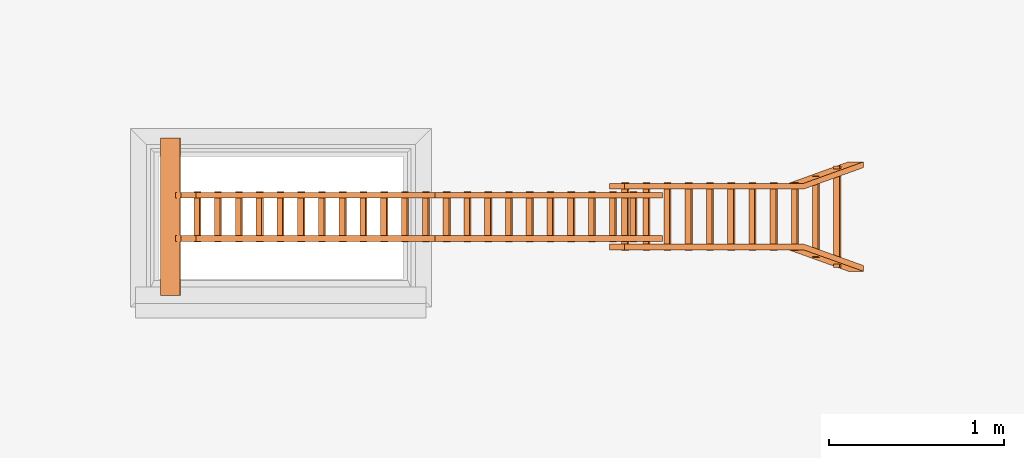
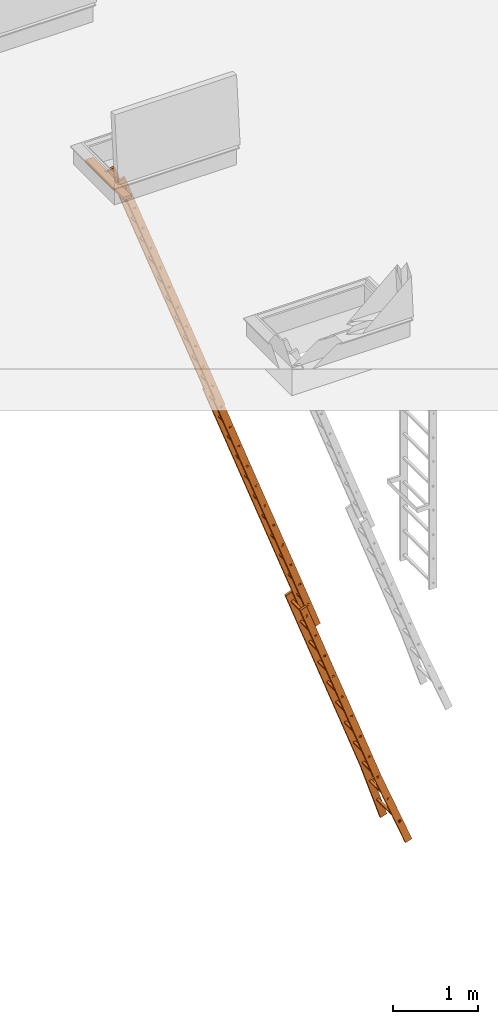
# One storey, part 9 of 28: 1 proxy, 2 openings.
"""IFC2X3 building model written with IfcOpenShell, lengths in millimetres."""

from ifc_helpers import new_model, entity, si_unit, converted_unit, derived_unit, direction, frame, frame_2d, origin, origin_2d_with_axis, place, context, subcontext, project, spatial, polyline, circle_curve, parameter, trimmed, segment, composite_curve, rectangle, outline, extrude, source, transform, mapped, type_object, type_shapes, element, save


model = new_model("IFC2X3")

# Units and contexts
model_context = context("Model", 3, precision=0.01, world=origin(), true_north=direction((6.12303176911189e-17, 1.0)))
body_context = subcontext(model_context, "Body", "Model", "MODEL_VIEW")
ifc_project = project(units=[si_unit("LENGTHUNIT", "METRE", prefix="MILLI"), si_unit("AREAUNIT", "SQUARE_METRE"), si_unit("VOLUMEUNIT", "CUBIC_METRE"), converted_unit("PLANEANGLEUNIT", "DEGREE", entity("IfcRatioMeasure", 0.0174532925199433), si_unit("PLANEANGLEUNIT", "RADIAN"), dimensions=[0, 0, 0, 0, 0, 0, 0]), si_unit("MASSUNIT", "GRAM", prefix="KILO"), derived_unit("MASSDENSITYUNIT", [(si_unit("MASSUNIT", "GRAM", prefix="KILO"), 1), (si_unit("LENGTHUNIT", "METRE"), -3)]), si_unit("TIMEUNIT", "SECOND"), si_unit("FREQUENCYUNIT", "HERTZ"), si_unit("THERMODYNAMICTEMPERATUREUNIT", "DEGREE_CELSIUS"), derived_unit("THERMALTRANSMITTANCEUNIT", [(si_unit("MASSUNIT", "GRAM", prefix="KILO"), 1), (si_unit("THERMODYNAMICTEMPERATUREUNIT", "KELVIN"), -1), (si_unit("TIMEUNIT", "SECOND"), -3)]), derived_unit("VOLUMETRICFLOWRATEUNIT", [(si_unit("LENGTHUNIT", "METRE"), 3), (si_unit("TIMEUNIT", "SECOND"), -1)]), si_unit("ELECTRICCURRENTUNIT", "AMPERE"), si_unit("ELECTRICVOLTAGEUNIT", "VOLT"), si_unit("POWERUNIT", "WATT"), si_unit("FORCEUNIT", "NEWTON", prefix="KILO"), si_unit("ILLUMINANCEUNIT", "LUX"), si_unit("LUMINOUSFLUXUNIT", "LUMEN"), si_unit("LUMINOUSINTENSITYUNIT", "CANDELA"), derived_unit("USERDEFINED", [(si_unit("MASSUNIT", "GRAM", prefix="KILO"), -1), (si_unit("LENGTHUNIT", "METRE"), -2), (si_unit("TIMEUNIT", "SECOND"), 3), (si_unit("LUMINOUSFLUXUNIT", "LUMEN"), 1)]), derived_unit("LINEARVELOCITYUNIT", [(si_unit("LENGTHUNIT", "METRE"), 1), (si_unit("TIMEUNIT", "SECOND"), -1)]), si_unit("PRESSUREUNIT", "PASCAL"), derived_unit("USERDEFINED", [(si_unit("LENGTHUNIT", "METRE"), -2), (si_unit("MASSUNIT", "GRAM", prefix="KILO"), 1), (si_unit("TIMEUNIT", "SECOND"), -2)])], contexts=[model_context])

# Site, building, storey
site_placement = place(None, origin())
site = spatial("IfcSite", under=ifc_project, at=site_placement, Name="Default", CompositionType="ELEMENT")
building_placement = place(site_placement, origin())
building = spatial("IfcBuilding", under=site, at=building_placement, CompositionType="ELEMENT")
storey_placement = place(building_placement, frame((0.0, 0.0, 4000.0)))
storey = spatial("IfcBuildingStorey", under=building, at=storey_placement, Name="Level 2", CompositionType="ELEMENT", Elevation=4000.0)

# Proxy, openings
building_element_proxy_type = type_object("IfcBuildingElementProxyType", Name="9_Topaccess_Trap_3delige1", PredefinedType="NOTDEFINED")
shared_shape = source(origin(), body_context, "Body", "SweptSolid", [
    extrude(outline(composite_curve([segment(polyline([(-20.0, -72.6666666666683), (20.0, -72.6666666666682)]), True, "CONTINUOUS"), segment(polyline([(20.0, -72.6666666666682), (20.0, 31.8333333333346)]), True, "CONTINUOUS"), segment(trimmed(circle_curve(frame_2d((11.0, 31.8333333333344), x_axis=(0.939692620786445, -0.342020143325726)), 8.99999999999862), [parameter(20.0000000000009)], [parameter(109.999999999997)], True, "PARAMETER"), True, "CONTINUOUS"), segment(polyline([(11.0, 40.8333333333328), (-11.0, 40.833333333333)]), True, "CONTINUOUS"), segment(trimmed(circle_curve(frame_2d((-11.0, 31.8333333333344), x_axis=(0.939692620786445, -0.342020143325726)), 8.99999999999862), [parameter(109.999999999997)], [parameter(199.999999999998)], True, "PARAMETER"), True, "CONTINUOUS"), segment(polyline([(-20.0, 31.8333333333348), (-20.0, -72.6666666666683)]), True, "CONTINUOUS")], self_intersect=False)), frame((-484.291584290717, 5437.00468660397, 85.555153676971), z_axis=(1.0, 0.0, 0.0), x_axis=(0.0, 0.939692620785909, 0.342020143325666)), (0.0, 0.0, 1.0), 900.0),
    extrude(outline(composite_curve([segment(polyline([(34.5620685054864, -17.3803405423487), (-85.4379314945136, -17.3803405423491)]), True, "CONTINUOUS"), segment(polyline([(-85.4379314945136, -17.3803405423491), (-85.4379314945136, -20.3803405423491)]), True, "CONTINUOUS"), segment(polyline([(-85.4379314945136, -20.3803405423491), (34.8237042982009, -20.3803405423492)]), True, "CONTINUOUS"), segment(trimmed(circle_curve(frame_2d((31.2529900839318, 0.719659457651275), x_axis=(1.0, 0.0)), 21.4), [parameter(279.605058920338)], [parameter(66.7401617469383)], True, "PARAMETER"), True, "CONTINUOUS"), segment(polyline([(39.7038846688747, 20.3803405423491), (11.3620685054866, 20.380340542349)]), True, "CONTINUOUS"), segment(polyline([(11.3620685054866, 20.380340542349), (11.3620685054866, 17.380340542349)]), True, "CONTINUOUS"), segment(polyline([(11.3620685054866, 17.380340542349), (39.0620685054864, 17.3803405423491)]), True, "CONTINUOUS"), segment(trimmed(circle_curve(frame_2d((31.2529900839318, 0.719659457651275), x_axis=(1.0, 0.0)), 18.4), [parameter(280.36051137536)], [parameter(64.8869014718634)], True, "PARAMETER"), False, "CONTINUOUS")], self_intersect=False)), frame((72.0, 5400.1320556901, 113.619659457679), z_axis=(-1.0, 0.0, 0.0), x_axis=(0.0, 1.0, 0.0)), (0.0, 0.0, -1.0), 33.0),
    extrude(outline(composite_curve([segment(polyline([(-85.4379314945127, -17.3803405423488), (-85.4379314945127, -20.3803405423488)]), True, "CONTINUOUS"), segment(polyline([(-85.4379314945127, -20.3803405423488), (34.8237042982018, -20.3803405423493)]), True, "CONTINUOUS"), segment(trimmed(circle_curve(frame_2d((31.2529900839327, 0.719659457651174), x_axis=(1.0, 0.0)), 21.4), [parameter(279.605058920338)], [parameter(66.7401617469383)], True, "PARAMETER"), True, "CONTINUOUS"), segment(polyline([(39.7038846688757, 20.380340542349), (11.3620685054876, 20.380340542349)]), True, "CONTINUOUS"), segment(polyline([(11.3620685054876, 20.380340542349), (11.3620685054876, 17.380340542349)]), True, "CONTINUOUS"), segment(polyline([(11.3620685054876, 17.380340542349), (39.0620685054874, 17.380340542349)]), True, "CONTINUOUS"), segment(trimmed(circle_curve(frame_2d((31.2529900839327, 0.719659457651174), x_axis=(1.0, 0.0)), 18.4), [parameter(280.36051137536)], [parameter(64.8869014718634)], True, "PARAMETER"), False, "CONTINUOUS"), segment(polyline([(34.5620685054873, -17.3803405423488), (-85.4379314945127, -17.3803405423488)]), True, "CONTINUOUS")], self_intersect=False)), frame((-175.0, 5400.13205569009, 113.619659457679), z_axis=(-1.0, 0.0, 0.0), x_axis=(0.0, 1.0, 0.0)), (0.0, 0.0, -1.0), 33.0000000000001),
    extrude(outline(polyline([(-11.5216143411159, -16.5), (13.8405381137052, -16.5), (13.8405381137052, 16.4999999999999), (-16.1594618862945, 16.5), (-11.5216143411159, -16.5)]), holes=[polyline([(8.84053811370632, -11.5), (-7.1751806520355, -11.5), (-10.4076198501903, 11.5000000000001), (8.84053811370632, 11.5), (8.84053811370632, -11.5)])]), frame((-178.583168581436, 1440.72573419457, 171.084388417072), z_axis=(1.0, 0.0, 0.0), x_axis=(0.0, -1.0, 0.0)), (0.0, 0.0, 1.0), 288.583168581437),
    extrude(outline(polyline([(-11.5216143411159, -16.5), (13.8405381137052, -16.5), (13.8405381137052, 16.4999999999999), (-16.1594618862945, 16.5), (-11.5216143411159, -16.5)]), holes=[polyline([(8.84053811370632, -11.5), (-7.1751806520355, -11.5), (-10.4076198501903, 11.5000000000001), (8.84053811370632, 11.5), (8.84053811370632, -11.5)])]), frame((-178.583168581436, 1093.22573419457, 171.084388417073), z_axis=(1.0, 0.0, 0.0), x_axis=(0.0, -1.0, 0.0)), (0.0, 0.0, 1.0), 288.583168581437),
    extrude(outline(polyline([(-11.5216143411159, -16.5), (13.8405381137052, -16.5), (13.8405381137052, 16.4999999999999), (-16.1594618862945, 16.5), (-11.5216143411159, -16.5)]), holes=[polyline([(8.84053811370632, -11.5), (-7.1751806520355, -11.5), (-10.4076198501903, 11.5000000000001), (8.84053811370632, 11.5), (8.84053811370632, -11.5)])]), frame((-178.583168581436, 745.725734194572, 171.084388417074), z_axis=(1.0, 0.0, 0.0), x_axis=(0.0, -1.0, 0.0)), (0.0, 0.0, 1.0), 288.583168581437),
    extrude(outline(polyline([(-11.5216143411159, -16.5), (13.8405381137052, -16.5), (13.8405381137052, 16.4999999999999), (-16.1594618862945, 16.5), (-11.5216143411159, -16.5)]), holes=[polyline([(8.84053811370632, -11.5), (-7.1751806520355, -11.5), (-10.4076198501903, 11.5000000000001), (8.84053811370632, 11.5), (8.84053811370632, -11.5)])]), frame((-178.583168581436, 398.225734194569, 171.084388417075), z_axis=(1.0, 0.0, 0.0), x_axis=(0.0, -1.0, 0.0)), (0.0, 0.0, 1.0), 288.583168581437),
    extrude(outline(polyline([(-11.5216143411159, -16.5), (13.8405381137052, -16.5), (13.8405381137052, 16.4999999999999), (-16.1594618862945, 16.5), (-11.5216143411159, -16.5)]), holes=[polyline([(8.84053811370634, -11.5), (-7.17518065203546, -11.5), (-10.4076198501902, 11.5000000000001), (8.84053811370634, 11.5), (8.84053811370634, -11.5)])]), frame((-178.583168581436, 50.7257341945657, 171.084388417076), z_axis=(1.0, 0.0, 0.0), x_axis=(0.0, -1.0, 0.0)), (0.0, 0.0, 1.0), 288.583168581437),
    extrude(outline(polyline([(-11.5216143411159, -16.5), (13.8405381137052, -16.5), (13.8405381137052, 16.4999999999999), (-16.1594618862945, 16.5), (-11.5216143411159, -16.5)]), holes=[polyline([(8.84053811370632, -11.5), (-7.17518065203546, -11.5), (-10.4076198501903, 11.5000000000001), (8.84053811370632, 11.5), (8.84053811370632, -11.5)])]), frame((-178.583168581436, -296.774265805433, 171.084388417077), z_axis=(1.0, 0.0, 0.0), x_axis=(0.0, -1.0, 0.0)), (0.0, 0.0, 1.0), 288.583168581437),
    extrude(outline(polyline([(-11.5216143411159, -16.5), (13.8405381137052, -16.5), (13.8405381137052, 16.4999999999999), (-16.1594618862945, 16.5), (-11.5216143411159, -16.5)]), holes=[polyline([(8.84053811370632, -11.5), (-7.1751806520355, -11.5), (-10.4076198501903, 11.5000000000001), (8.84053811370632, 11.5), (8.84053811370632, -11.5)])]), frame((-178.583168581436, -644.274265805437, 171.084388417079), z_axis=(1.0, 0.0, 0.0), x_axis=(0.0, -1.0, 0.0)), (0.0, 0.0, 1.0), 288.583168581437),
    extrude(outline(polyline([(-11.5216143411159, -16.5), (13.8405381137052, -16.5), (13.8405381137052, 16.4999999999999), (-16.1594618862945, 16.5), (-11.5216143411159, -16.5)]), holes=[polyline([(8.84053811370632, -11.5), (-7.1751806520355, -11.5), (-10.4076198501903, 11.5000000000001), (8.84053811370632, 11.5), (8.84053811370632, -11.5)])]), frame((-178.583168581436, -991.774265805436, 171.08438841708), z_axis=(1.0, 0.0, 0.0), x_axis=(0.0, -1.0, 0.0)), (0.0, 0.0, 1.0), 288.583168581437),
    extrude(outline(polyline([(-11.5216143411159, -16.5), (13.8405381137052, -16.5), (13.8405381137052, 16.4999999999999), (-16.1594618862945, 16.5), (-11.5216143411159, -16.5)]), holes=[polyline([(8.84053811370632, -11.5), (-7.1751806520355, -11.5), (-10.4076198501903, 11.5000000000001), (8.84053811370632, 11.5), (8.84053811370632, -11.5)])]), frame((-178.583168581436, -1339.27426580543, 171.084388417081), z_axis=(1.0, 0.0, 0.0), x_axis=(0.0, -1.0, 0.0)), (0.0, 0.0, 1.0), 288.583168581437),
    extrude(outline(polyline([(-11.5216143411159, -16.4999999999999), (13.8405381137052, -16.4999999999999), (13.8405381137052, 16.4999999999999), (-16.1594618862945, 16.5), (-11.5216143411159, -16.4999999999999)]), holes=[polyline([(8.84053811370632, -11.5), (-7.1751806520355, -11.5), (-10.4076198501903, 11.5000000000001), (8.84053811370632, 11.5), (8.84053811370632, -11.5)])]), frame((-178.583168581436, -1686.77426580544, 171.084388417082), z_axis=(1.0, 0.0, 0.0), x_axis=(0.0, -1.0, 0.0)), (0.0, 0.0, 1.0), 288.583168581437),
    extrude(rectangle(XDim=33.0, YDim=4000.0, at=origin_2d_with_axis()), frame((88.5000000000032, -399.911054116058, 120.0), z_axis=(0.0, 0.0, 1.0), x_axis=(-1.0, 0.0, 0.0)), (0.0, 0.0, 1.0), 92.0),
    extrude(rectangle(XDim=33.0, YDim=4000.0, at=frame_2d((8.88178419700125e-15, 0.0), x_axis=(1.0, 0.0))), frame((-158.499999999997, -399.911054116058, 120.0), z_axis=(0.0, 0.0, 1.0), x_axis=(-1.0, 0.0, 0.0)), (0.0, 0.0, 1.0), 92.0),
    extrude(rectangle(XDim=33.0, YDim=4000.0, at=origin_2d_with_axis()), frame((88.5000000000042, 3440.6557599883, 134.0), z_axis=(0.0, 0.0, 1.0), x_axis=(-1.0, 0.0, 0.0)), (0.0, 0.0, 1.0), 90.0),
    extrude(rectangle(XDim=33.0, YDim=4000.0, at=frame_2d((8.88178419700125e-15, -5.6843418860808e-13), x_axis=(1.0, 0.0))), frame((-158.499999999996, 3440.6557599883, 134.0), z_axis=(0.0, 0.0, 1.0), x_axis=(-1.0, 0.0, 0.0)), (0.0, 0.0, 1.0), 90.0),
    extrude(outline(polyline([(-11.5216143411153, -16.5), (13.8405381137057, -16.5), (13.8405381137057, 16.5), (-16.159461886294, 16.5000000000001), (-11.5216143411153, -16.5)]), holes=[polyline([(8.84053811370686, -11.5), (-7.17518065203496, -11.5), (-10.4076198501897, 11.5), (8.84053811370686, 11.5), (8.84053811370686, -11.5)])]), frame((-178.583168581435, 5281.29254829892, 176.084388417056), z_axis=(1.0, 0.0, 0.0), x_axis=(0.0, -1.0, 0.0)), (0.0, 0.0, 1.0), 288.583168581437),
    extrude(outline(polyline([(-11.5216143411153, -16.5), (13.8405381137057, -16.5), (13.8405381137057, 16.5), (-16.159461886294, 16.5000000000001), (-11.5216143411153, -16.5)]), holes=[polyline([(8.84053811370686, -11.5), (-7.17518065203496, -11.5), (-10.4076198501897, 11.5), (8.84053811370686, 11.5), (8.84053811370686, -11.5)])]), frame((-178.583168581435, 4933.79254829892, 176.084388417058), z_axis=(1.0, 0.0, 0.0), x_axis=(0.0, -1.0, 0.0)), (0.0, 0.0, 1.0), 288.583168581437),
    extrude(outline(polyline([(-11.5216143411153, -16.5), (13.8405381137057, -16.5), (13.8405381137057, 16.5), (-16.159461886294, 16.5000000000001), (-11.5216143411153, -16.5)]), holes=[polyline([(8.84053811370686, -11.5), (-7.17518065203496, -11.5), (-10.4076198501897, 11.5), (8.84053811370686, 11.5), (8.84053811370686, -11.5)])]), frame((-178.583168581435, 4586.29254829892, 176.084388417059), z_axis=(1.0, 0.0, 0.0), x_axis=(0.0, -1.0, 0.0)), (0.0, 0.0, 1.0), 288.583168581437),
    extrude(outline(polyline([(-11.5216143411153, -16.5), (13.8405381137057, -16.5), (13.8405381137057, 16.4999999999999), (-16.159461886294, 16.5), (-11.5216143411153, -16.5)]), holes=[polyline([(8.84053811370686, -11.5), (-7.17518065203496, -11.5), (-10.4076198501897, 11.5), (8.84053811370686, 11.4999999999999), (8.84053811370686, -11.5)])]), frame((-178.583168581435, 4238.79254829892, 176.08438841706), z_axis=(1.0, 0.0, 0.0), x_axis=(0.0, -1.0, 0.0)), (0.0, 0.0, 1.0), 288.583168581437),
    extrude(outline(polyline([(-11.5216143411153, -16.5), (13.8405381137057, -16.5), (13.8405381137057, 16.5), (-16.159461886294, 16.5000000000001), (-11.5216143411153, -16.5)]), holes=[polyline([(8.84053811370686, -11.5), (-7.17518065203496, -11.5), (-10.4076198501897, 11.5), (8.84053811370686, 11.5), (8.84053811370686, -11.5)])]), frame((-178.583168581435, 3891.29254829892, 176.084388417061), z_axis=(1.0, 0.0, 0.0), x_axis=(0.0, -1.0, 0.0)), (0.0, 0.0, 1.0), 288.583168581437),
    extrude(outline(polyline([(-11.5216143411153, -16.5), (13.8405381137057, -16.5), (13.8405381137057, 16.5), (-16.159461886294, 16.5000000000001), (-11.5216143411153, -16.5)]), holes=[polyline([(8.84053811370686, -11.5), (-7.17518065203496, -11.5), (-10.4076198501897, 11.5), (8.84053811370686, 11.5), (8.84053811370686, -11.5)])]), frame((-178.583168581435, 3543.79254829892, 176.084388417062), z_axis=(1.0, 0.0, 0.0), x_axis=(0.0, -1.0, 0.0)), (0.0, 0.0, 1.0), 288.583168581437),
    extrude(outline(polyline([(-11.5216143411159, -16.5), (13.8405381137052, -16.5), (13.8405381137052, 16.4999999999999), (-16.1594618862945, 16.5), (-11.5216143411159, -16.5)]), holes=[polyline([(8.84053811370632, -11.5), (-7.1751806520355, -11.5), (-10.4076198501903, 11.5), (8.84053811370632, 11.5), (8.84053811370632, -11.5)])]), frame((-178.583168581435, 3196.29254829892, 176.084388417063), z_axis=(1.0, 0.0, 0.0), x_axis=(0.0, -1.0, 0.0)), (0.0, 0.0, 1.0), 288.583168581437),
    extrude(outline(polyline([(-11.5216143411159, -16.5), (13.8405381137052, -16.5), (13.8405381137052, 16.4999999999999), (-16.1594618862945, 16.5), (-11.5216143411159, -16.5)]), holes=[polyline([(8.84053811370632, -11.5), (-7.1751806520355, -11.5), (-10.4076198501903, 11.5), (8.84053811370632, 11.5), (8.84053811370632, -11.5)])]), frame((-178.583168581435, 2848.79254829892, 176.084388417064), z_axis=(1.0, 0.0, 0.0), x_axis=(0.0, -1.0, 0.0)), (0.0, 0.0, 1.0), 288.583168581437),
    extrude(outline(polyline([(-11.5216143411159, -16.5), (13.8405381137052, -16.5), (13.8405381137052, 16.5), (-16.1594618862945, 16.5000000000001), (-11.5216143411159, -16.5)]), holes=[polyline([(8.84053811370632, -11.5), (-7.1751806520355, -11.5), (-10.4076198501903, 11.5000000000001), (8.84053811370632, 11.5), (8.84053811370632, -11.5)])]), frame((-178.583168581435, 2501.29254829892, 176.084388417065), z_axis=(1.0, 0.0, 0.0), x_axis=(0.0, -1.0, 0.0)), (0.0, 0.0, 1.0), 288.583168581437),
    extrude(outline(polyline([(-11.5216143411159, -16.5), (13.8405381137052, -16.5), (13.8405381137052, 16.5), (-16.1594618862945, 16.5000000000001), (-11.5216143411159, -16.5)]), holes=[polyline([(8.84053811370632, -11.5), (-7.1751806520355, -11.5), (-10.4076198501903, 11.5), (8.84053811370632, 11.5), (8.84053811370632, -11.5)])]), frame((-178.583168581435, 2153.79254829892, 176.084388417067), z_axis=(1.0, 0.0, 0.0), x_axis=(0.0, -1.0, 0.0)), (0.0, 0.0, 1.0), 288.583168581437),
    extrude(outline(polyline([(-11.5216143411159, -16.5), (13.8405381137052, -16.5), (13.8405381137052, 16.4999999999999), (-16.1594618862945, 16.5), (-11.5216143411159, -16.5)]), holes=[polyline([(8.84053811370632, -11.5), (-7.1751806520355, -11.5), (-10.4076198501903, 11.5), (8.84053811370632, 11.5), (8.84053811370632, -11.5)])]), frame((-178.583168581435, 1806.29254829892, 176.084388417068), z_axis=(1.0, 0.0, 0.0), x_axis=(0.0, -1.0, 0.0)), (0.0, 0.0, 1.0), 288.583168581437),
    extrude(outline(polyline([(-11.5216143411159, -16.5), (13.8405381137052, -16.5), (13.8405381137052, 16.4999999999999), (-16.1594618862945, 16.5), (-11.5216143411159, -16.5)]), holes=[polyline([(8.84053811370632, -11.5), (-7.1751806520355, -11.5), (-10.4076198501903, 11.5), (8.84053811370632, 11.5), (8.84053811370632, -11.5)])]), frame((-227.077291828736, -2129.53575748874, 85.0843884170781), z_axis=(1.0, 0.0, 0.0), x_axis=(0.0, -1.0, 0.0)), (0.0, 0.0, 1.0), 389.077291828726),
    extrude(outline(polyline([(-11.5216143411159, -16.5), (13.8405381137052, -16.5), (13.8405381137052, 16.5), (-16.1594618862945, 16.5), (-11.5216143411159, -16.5)]), holes=[polyline([(8.84053811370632, -11.5), (-7.1751806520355, -11.5), (-10.4076198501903, 11.5), (8.84053811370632, 11.5), (8.84053811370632, -11.5)])]), frame((-227.077291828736, -2484.53575748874, 85.0843884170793), z_axis=(1.0, 0.0, 0.0), x_axis=(0.0, -1.0, 0.0)), (0.0, 0.0, 1.0), 389.077291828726),
    extrude(outline(polyline([(-11.5216143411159, -16.5), (13.8405381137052, -16.5), (13.8405381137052, 16.4999999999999), (-16.1594618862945, 16.5), (-11.5216143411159, -16.5)]), holes=[polyline([(8.84053811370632, -11.5), (-7.1751806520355, -11.5), (-10.4076198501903, 11.5), (8.84053811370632, 11.5), (8.84053811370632, -11.5)])]), frame((-227.077291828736, -2839.53575748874, 85.0843884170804), z_axis=(1.0, 0.0, 0.0), x_axis=(0.0, -1.0, 0.0)), (0.0, 0.0, 1.0), 389.077291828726),
    extrude(outline(polyline([(-11.5216143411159, -16.5), (13.8405381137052, -16.5), (13.8405381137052, 16.4999999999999), (-16.1594618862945, 16.5), (-11.5216143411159, -16.5)]), holes=[polyline([(8.84053811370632, -11.5), (-7.1751806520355, -11.5), (-10.4076198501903, 11.5000000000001), (8.84053811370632, 11.5), (8.84053811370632, -11.5)])]), frame((-178.583168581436, -2034.27426580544, 171.084388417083), z_axis=(1.0, 0.0, 0.0), x_axis=(0.0, -1.0, 0.0)), (0.0, 0.0, 1.0), 288.583168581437),
    extrude(outline(polyline([(-11.5216143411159, -16.5), (13.8405381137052, -16.5), (13.8405381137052, 16.4999999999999), (-16.1594618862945, 16.5), (-11.5216143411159, -16.5)]), holes=[polyline([(8.84053811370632, -11.5), (-7.1751806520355, -11.5), (-10.4076198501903, 11.5), (8.84053811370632, 11.5), (8.84053811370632, -11.5)])]), frame((-227.077291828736, -3194.53575748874, 85.0843884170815), z_axis=(1.0, 0.0, 0.0), x_axis=(0.0, -1.0, 0.0)), (0.0, 0.0, 1.0), 389.077291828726),
    extrude(outline(polyline([(-11.5216143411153, -16.5), (13.8405381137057, -16.5), (13.8405381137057, 16.4999999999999), (-16.159461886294, 16.5), (-11.5216143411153, -16.5)]), holes=[polyline([(8.84053811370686, -11.5), (-7.17518065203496, -11.5), (-10.4076198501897, 11.5), (8.84053811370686, 11.5), (8.84053811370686, -11.5)])]), frame((-227.077291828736, -3549.53575748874, 85.0843884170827), z_axis=(1.0, 0.0, 0.0), x_axis=(0.0, -1.0, 0.0)), (0.0, 0.0, 1.0), 389.077291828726),
    extrude(outline(polyline([(-11.5216143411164, -16.5), (13.8405381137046, -16.5), (13.8405381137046, 16.5), (-16.159461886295, 16.5), (-11.5216143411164, -16.5)]), holes=[polyline([(8.84053811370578, -11.5), (-7.17518065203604, -11.5), (-10.4076198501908, 11.5), (8.84053811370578, 11.5), (8.84053811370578, -11.5)])]), frame((-227.077291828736, -3904.53575748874, 85.0843884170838), z_axis=(1.0, 0.0, 0.0), x_axis=(0.0, -1.0, 0.0)), (0.0, 0.0, 1.0), 389.077291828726),
    extrude(outline(polyline([(-11.5216143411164, -16.5), (13.8405381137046, -16.5), (13.8405381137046, 16.5), (-16.159461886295, 16.5000000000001), (-11.5216143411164, -16.5)]), holes=[polyline([(8.84053811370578, -11.5), (-7.17518065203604, -11.5), (-10.4076198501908, 11.5000000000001), (8.84053811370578, 11.5), (8.84053811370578, -11.5)])]), frame((-227.077291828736, -4259.53575748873, 85.084388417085), z_axis=(1.0, 0.0, 0.0), x_axis=(0.0, -1.0, 0.0)), (0.0, 0.0, 1.0), 389.077291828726),
    extrude(outline(polyline([(-11.5216143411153, -16.5), (13.8405381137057, -16.5), (13.8405381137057, 16.5), (-16.159461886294, 16.5000000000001), (-11.5216143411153, -16.5)]), holes=[polyline([(8.84053811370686, -11.5), (-7.17518065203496, -11.5), (-10.4076198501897, 11.5000000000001), (8.84053811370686, 11.5), (8.84053811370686, -11.5)])]), frame((-227.077291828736, -4614.53575748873, 85.0843884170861), z_axis=(1.0, 0.0, 0.0), x_axis=(0.0, -1.0, 0.0)), (0.0, 0.0, 1.0), 389.077291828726),
    extrude(outline(polyline([(-11.5216143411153, -16.5), (13.8405381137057, -16.5), (13.8405381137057, 16.5), (-16.159461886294, 16.5000000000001), (-11.5216143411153, -16.5)]), holes=[polyline([(8.84053811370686, -11.5), (-7.17518065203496, -11.5), (-10.4076198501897, 11.5000000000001), (8.84053811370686, 11.5), (8.84053811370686, -11.5)])]), frame((-227.077291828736, -4969.53575748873, 85.0843884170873), z_axis=(1.0, 0.0, 0.0), x_axis=(0.0, -1.0, 0.0)), (0.0, 0.0, 1.0), 389.077291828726),
    extrude(outline(polyline([(-11.5216143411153, -16.5), (13.8405381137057, -16.5), (13.8405381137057, 16.5), (-16.159461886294, 16.5000000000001), (-11.5216143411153, -16.5)]), holes=[polyline([(8.84053811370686, -11.5), (-7.17518065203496, -11.5), (-10.4076198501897, 11.5), (8.84053811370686, 11.5), (8.84053811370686, -11.5)])]), frame((-266.000121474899, -5324.53575748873, 85.0843884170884), z_axis=(1.0, 0.0, 0.0), x_axis=(0.0, -1.0, 0.0)), (0.0, 0.0, 1.0), 465.000121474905),
    extrude(outline(polyline([(-11.5216143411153, -16.5), (13.8405381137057, -16.5), (13.8405381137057, 16.5), (-16.159461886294, 16.5000000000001), (-11.5216143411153, -16.5)]), holes=[polyline([(8.84053811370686, -11.5), (-7.17518065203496, -11.5), (-10.4076198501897, 11.5000000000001), (8.84053811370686, 11.5), (8.84053811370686, -11.5)])]), frame((-323.951711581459, -5679.53575748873, 85.0843884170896), z_axis=(1.0, 0.0, 0.0), x_axis=(0.0, -1.0, 0.0)), (0.0, 0.0, 1.0), 580.345535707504),
    extrude(outline(polyline([(652.705853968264, -138.16622783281), (1663.21970450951, -138.16622783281), (1667.27159501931, -105.166227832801), (656.727542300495, -105.412204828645), (-2317.9515037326, 259.832455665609), (-2321.97319206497, 227.078432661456), (652.705853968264, -138.16622783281)])), frame((181.59152386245, -4331.59474961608, 35.4999999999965), z_axis=(0.0, 0.0, 1.0), x_axis=(0.121869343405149, -0.992546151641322, 0.0)), (0.0, 0.0, 1.0), 92.0),
    extrude(outline(polyline([(655.058107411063, 105.207223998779), (1667.6054819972, 105.207223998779), (1663.55359148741, 138.207223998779), (653.039740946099, 138.207223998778), (-2321.63930508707, -227.037436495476), (-2317.6176167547, -259.791459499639), (655.058107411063, 105.207223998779)])), frame((-247.591523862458, -4331.25835520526, 35.4999999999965), z_axis=(0.0, 0.0, 1.0), x_axis=(-0.121869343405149, -0.992546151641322, 0.0)), (0.0, 0.0, 1.0), 92.0),
])
type_shapes(building_element_proxy_type, [shared_shape])
proxy_placement = place(storey_placement, frame((2973.33286511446, 9913.78291614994, -4726.49653876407), z_axis=(0.939692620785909, 0.0, 0.342020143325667), x_axis=(0.0, 1.0, 0.0)))
proxy = element("IfcBuildingElementProxy", 1, at=proxy_placement, inside=storey, type_object=building_element_proxy_type, Name="9_Topaccess_Trap_3delige1:9_Topaccess_Trap_3delige1", ObjectType="9_Topaccess_Trap_3delige1", context=body_context, shape_type="MappedRepresentation", body=[
    mapped(shared_shape, transform((0.0, 0.0, 0.0), scale=1.0)),
])
opening_1_placement = place(storey_placement, frame((2973.33286511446, 9913.78291614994, -726.496538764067), z_axis=(0.321393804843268, 0.939692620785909, 0.11697777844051), x_axis=(-0.342020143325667, 0.0, 0.939692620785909)))
element("IfcOpeningElement", 2, at=opening_1_placement, cuts=proxy, Name="9_Topaccess_Trap_3delige1:9_Topaccess_Trap_3delige1:1", ObjectType="Opening", context=body_context, shape_type="SweptSolid", body=[
    extrude(rectangle(XDim=42.5298592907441, YDim=59.0000000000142, at=frame_2d((1.50990331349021e-13, 0.0), x_axis=(1.0, 0.0))), frame((5455.41950062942, -3616.75827240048, -1485.06453262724), z_axis=(-0.939692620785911, -0.321393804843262, -0.116977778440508), x_axis=(-0.342020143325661, 0.883022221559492, 0.321393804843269)), (0.0, 0.0, 1.0), 40.0000000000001),
])
opening_2_placement = place(storey_placement, frame((2973.33286511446, 9913.78291614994, -726.496538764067), z_axis=(0.321393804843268, 0.939692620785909, 0.11697777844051), x_axis=(-0.342020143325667, 0.0, 0.939692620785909)))
element("IfcOpeningElement", 3, at=opening_2_placement, cuts=proxy, Name="9_Topaccess_Trap_3delige1:9_Topaccess_Trap_3delige1:2", ObjectType="Opening", context=body_context, shape_type="SweptSolid", body=[
    extrude(rectangle(XDim=42.5298592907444, YDim=59.0000000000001, at=frame_2d((1.08357767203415e-13, 0.0), x_axis=(1.0, 0.0))), frame((5455.41950062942, -3701.23724780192, -1252.96045529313), z_axis=(-0.939692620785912, -0.32139380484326, -0.116977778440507), x_axis=(-0.342020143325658, 0.883022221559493, 0.321393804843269)), (0.0, 0.0, 1.0), 40.0000000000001),
])

save(model, "model.ifc")
